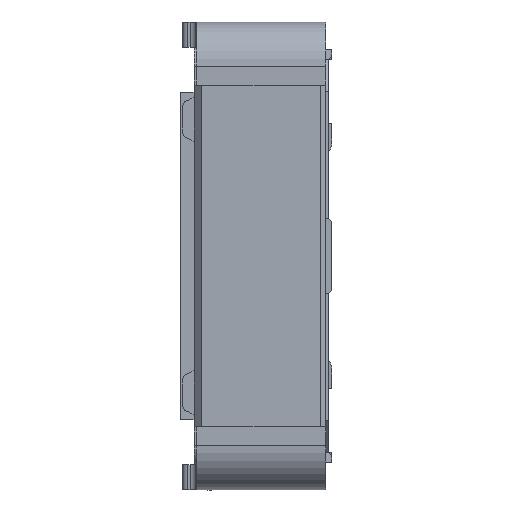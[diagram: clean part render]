
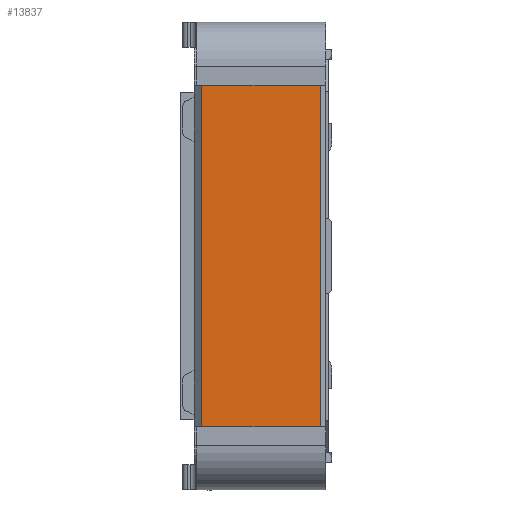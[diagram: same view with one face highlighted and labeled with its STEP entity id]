
A CAD part, left-side view. The second image highlights one B-rep face of the part: STEP entity #13837.
In plain terms, the highlighted planar face has unit normal (-1, 0, 0).
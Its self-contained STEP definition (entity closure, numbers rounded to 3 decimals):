
#113 = VECTOR ( 'NONE', #21117, 1000. ) ;
#432 = CARTESIAN_POINT ( 'NONE',  ( -2.605, 0.09, 1.35 ) ) ;
#537 = EDGE_CURVE ( 'NONE', #22742, #6948, #25136, .T. ) ;
#689 = CARTESIAN_POINT ( 'NONE',  ( -2.605, 1.03, 1.35 ) ) ;
#4041 = ORIENTED_EDGE ( 'NONE', *, *, #28823, .F. ) ;
#4554 = ORIENTED_EDGE ( 'NONE', *, *, #12048, .T. ) ;
#4689 = CARTESIAN_POINT ( 'NONE',  ( -2.605, 0.09, 1.35 ) ) ;
#5360 = VECTOR ( 'NONE', #8550, 1000. ) ;
#6764 = VERTEX_POINT ( 'NONE', #24555 ) ;
#6853 = CARTESIAN_POINT ( 'NONE',  ( -2.605, 0.09, 1.35 ) ) ;
#6948 = VERTEX_POINT ( 'NONE', #9213 ) ;
#8134 = LINE ( 'NONE', #432, #17192 ) ;
#8337 = LINE ( 'NONE', #21039, #19080 ) ;
#8550 = DIRECTION ( 'NONE',  ( 0., 0., -1. ) ) ;
#8898 = LINE ( 'NONE', #13902, #113 ) ;
#9213 = CARTESIAN_POINT ( 'NONE',  ( -2.605, 1.03, -1.35 ) ) ;
#9386 = CARTESIAN_POINT ( 'NONE',  ( -2.605, 1.03, 1.35 ) ) ;
#9466 = EDGE_LOOP ( 'NONE', ( #4554, #21130, #4041, #14931 ) ) ;
#10245 = DIRECTION ( 'NONE',  ( 0., 0., -1. ) ) ;
#12048 = EDGE_CURVE ( 'NONE', #6948, #6764, #8337, .T. ) ;
#13659 = DIRECTION ( 'NONE',  ( 0., -1., 0. ) ) ;
#13837 = ADVANCED_FACE ( 'NONE', ( #24385 ), #16676, .F. ) ;
#13902 = CARTESIAN_POINT ( 'NONE',  ( -2.605, 0.09, 1.35 ) ) ;
#14931 = ORIENTED_EDGE ( 'NONE', *, *, #537, .T. ) ;
#16282 = VERTEX_POINT ( 'NONE', #4689 ) ;
#16676 = PLANE ( 'NONE',  #30912 ) ;
#17192 = VECTOR ( 'NONE', #10245, 1000. ) ;
#19080 = VECTOR ( 'NONE', #13659, 1000. ) ;
#21039 = CARTESIAN_POINT ( 'NONE',  ( -2.605, 0.09, -1.35 ) ) ;
#21117 = DIRECTION ( 'NONE',  ( 0., -1., 0. ) ) ;
#21130 = ORIENTED_EDGE ( 'NONE', *, *, #25820, .F. ) ;
#21167 = DIRECTION ( 'NONE',  ( 0., 1., 0. ) ) ;
#22742 = VERTEX_POINT ( 'NONE', #9386 ) ;
#24385 = FACE_OUTER_BOUND ( 'NONE', #9466, .T. ) ;
#24555 = CARTESIAN_POINT ( 'NONE',  ( -2.605, 0.09, -1.35 ) ) ;
#25136 = LINE ( 'NONE', #689, #5360 ) ;
#25820 = EDGE_CURVE ( 'NONE', #16282, #6764, #8134, .T. ) ;
#26329 = DIRECTION ( 'NONE',  ( 1., 0., 0. ) ) ;
#28823 = EDGE_CURVE ( 'NONE', #22742, #16282, #8898, .T. ) ;
#30912 = AXIS2_PLACEMENT_3D ( 'NONE', #6853, #26329, #21167 ) ;
